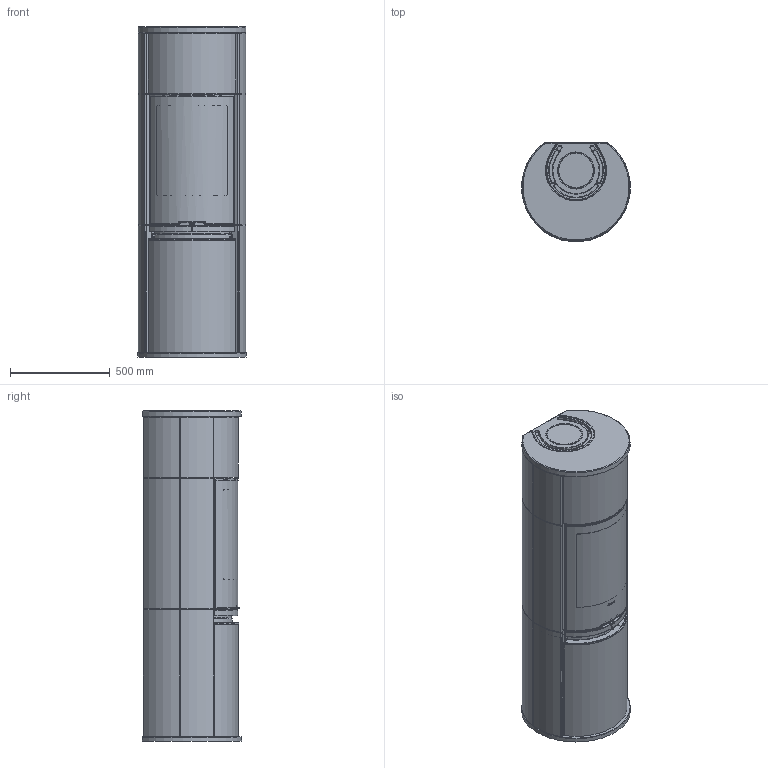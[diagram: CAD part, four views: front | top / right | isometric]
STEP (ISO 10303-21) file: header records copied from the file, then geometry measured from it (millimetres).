
FILE_DESCRIPTION(/* description */ ('Unknown'),/* implementation_level */ '2;1');
FILE_NAME(/* name */ 'C690AG interior model-0',/* time_stamp */ '2017-06-28T11:41:19+02:00',/* author */ ('Unknown'),/* organization */ ('NIBE AB/Contura'),/* preprocessor_version */ 'ST-DEVELOPER v16.7',/* originating_system */ 'DEX',/* authorisation */ $);
FILE_SCHEMA (('AUTOMOTIVE_DESIGN {1 0 10303 214 3 1 1}'));
Products named in the file (14): DSN1018756; DSN1018413; DSN1018758; DSN1018779; DSN1018776; DSN1018414; DSN1018411; DSN1018429; DSN1018742; DSN1018737; DSN1018760; DSN1018759; DSN1018739; DSN1018757
Assembly tree (13 placements, depth 2):
  DSN1018756
    DSN1018413
    DSN1018758
    DSN1018779
    DSN1018776
    DSN1018414
    DSN1018411
    DSN1018429
    DSN1018742
    DSN1018737
    DSN1018760
    DSN1018759
    DSN1018739
    DSN1018757
Bounding box: 542.46 x 495.19 x 1652 mm (x, y, z)
Volume: 303567393.4 mm3; surface area: 12968357.5 mm2
Topology: 14 solids, 20 shells, 1446 faces, 3656 edges, 2341 vertices
Faces by surface type: plane 599, bspline 373, cylinder 279, torus 90, cone 84, sphere 21
Full cylindrical faces by diameter (mm): 170 x1, 172 x1, 205 x1, 210.655 x1
Entity records: 57471 total; most frequent: CARTESIAN_POINT 24582, ORIENTED_EDGE 7226, DIRECTION 5290, EDGE_CURVE 3613, VERTEX_POINT 2325, AXIS2_PLACEMENT_3D 2019, EDGE_LOOP 1572, FACE_BOUND 1572
